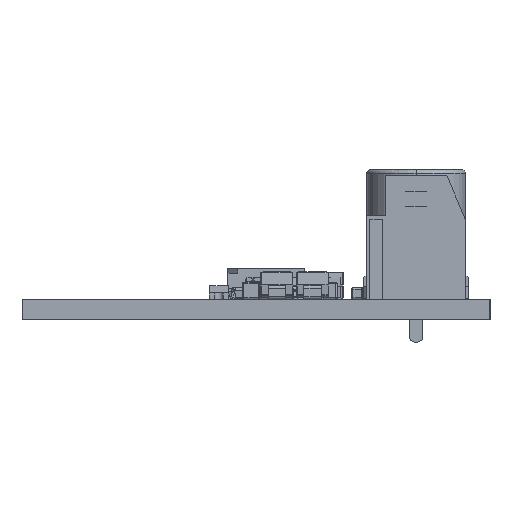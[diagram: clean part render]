
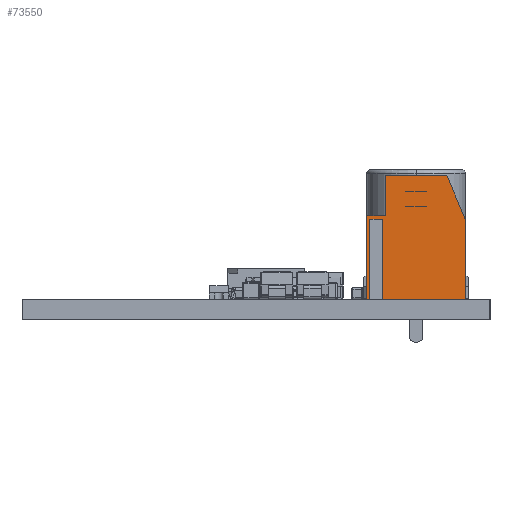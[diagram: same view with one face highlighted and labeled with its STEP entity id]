
A CAD part, left-side view. The second image highlights one B-rep face of the part: STEP entity #73550.
In plain terms, the highlighted planar face has unit normal (-1, 0, 0) as drawn and (0, -1, 0) by its records, which use the part's own axes.
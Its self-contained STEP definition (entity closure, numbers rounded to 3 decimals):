
#73132 = VERTEX_POINT('',#73133);
#73133 = CARTESIAN_POINT('',(-4.,-5.,-5.));
#73139 = EDGE_CURVE('',#73132,#73140,#73142,.T.);
#73140 = VERTEX_POINT('',#73141);
#73141 = CARTESIAN_POINT('',(-3.5,-5.,-5.));
#73142 = LINE('',#73143,#73144);
#73143 = CARTESIAN_POINT('',(-4.,-5.,-5.));
#73144 = VECTOR('',#73145,1.);
#73145 = DIRECTION('',(1.,0.,0.));
#73148 = VERTEX_POINT('',#73149);
#73149 = CARTESIAN_POINT('',(-3.,-5.,-5.));
#73155 = EDGE_CURVE('',#73148,#73156,#73158,.T.);
#73156 = VERTEX_POINT('',#73157);
#73157 = CARTESIAN_POINT('',(4.,-5.,-5.));
#73158 = LINE('',#73159,#73160);
#73159 = CARTESIAN_POINT('',(-4.,-5.,-5.));
#73160 = VECTOR('',#73161,1.);
#73161 = DIRECTION('',(1.,0.,0.));
#73347 = VERTEX_POINT('',#73348);
#73348 = CARTESIAN_POINT('',(4.,-5.,1.5));
#73354 = EDGE_CURVE('',#73347,#73355,#73357,.T.);
#73355 = VERTEX_POINT('',#73356);
#73356 = CARTESIAN_POINT('',(2.5,-5.,5.));
#73357 = LINE('',#73358,#73359);
#73358 = CARTESIAN_POINT('',(4.,-5.,1.5));
#73359 = VECTOR('',#73360,1.);
#73360 = DIRECTION('',(-0.394,0.,0.919));
#73517 = EDGE_CURVE('',#73156,#73347,#73518,.T.);
#73518 = LINE('',#73519,#73520);
#73519 = CARTESIAN_POINT('',(4.,-5.,-5.));
#73520 = VECTOR('',#73521,1.);
#73521 = DIRECTION('',(0.,0.,1.));
#73550 = ADVANCED_FACE('',(#73551),#73609,.F.);
#73551 = FACE_BOUND('',#73552,.F.);
#73552 = EDGE_LOOP('',(#73553,#73554,#73562,#73570,#73578,#73584,#73585,
    #73586,#73587,#73595,#73603));
#73553 = ORIENTED_EDGE('',*,*,#73139,.F.);
#73554 = ORIENTED_EDGE('',*,*,#73555,.F.);
#73555 = EDGE_CURVE('',#73556,#73132,#73558,.T.);
#73556 = VERTEX_POINT('',#73557);
#73557 = CARTESIAN_POINT('',(-4.,-5.,1.75));
#73558 = LINE('',#73559,#73560);
#73559 = CARTESIAN_POINT('',(-4.,-5.,1.75));
#73560 = VECTOR('',#73561,1.);
#73561 = DIRECTION('',(0.,0.,-1.));
#73562 = ORIENTED_EDGE('',*,*,#73563,.T.);
#73563 = EDGE_CURVE('',#73556,#73564,#73566,.T.);
#73564 = VERTEX_POINT('',#73565);
#73565 = CARTESIAN_POINT('',(-2.5,-5.,1.75));
#73566 = LINE('',#73567,#73568);
#73567 = CARTESIAN_POINT('',(-4.,-5.,1.75));
#73568 = VECTOR('',#73569,1.);
#73569 = DIRECTION('',(1.,0.,0.));
#73570 = ORIENTED_EDGE('',*,*,#73571,.T.);
#73571 = EDGE_CURVE('',#73564,#73572,#73574,.T.);
#73572 = VERTEX_POINT('',#73573);
#73573 = CARTESIAN_POINT('',(-2.5,-5.,5.));
#73574 = LINE('',#73575,#73576);
#73575 = CARTESIAN_POINT('',(-2.5,-5.,1.75));
#73576 = VECTOR('',#73577,1.);
#73577 = DIRECTION('',(0.,0.,1.));
#73578 = ORIENTED_EDGE('',*,*,#73579,.T.);
#73579 = EDGE_CURVE('',#73572,#73355,#73580,.T.);
#73580 = LINE('',#73581,#73582);
#73581 = CARTESIAN_POINT('',(-2.5,-5.,5.));
#73582 = VECTOR('',#73583,1.);
#73583 = DIRECTION('',(1.,0.,0.));
#73584 = ORIENTED_EDGE('',*,*,#73354,.F.);
#73585 = ORIENTED_EDGE('',*,*,#73517,.F.);
#73586 = ORIENTED_EDGE('',*,*,#73155,.F.);
#73587 = ORIENTED_EDGE('',*,*,#73588,.T.);
#73588 = EDGE_CURVE('',#73148,#73589,#73591,.T.);
#73589 = VERTEX_POINT('',#73590);
#73590 = CARTESIAN_POINT('',(-3.,-5.,1.5));
#73591 = LINE('',#73592,#73593);
#73592 = CARTESIAN_POINT('',(-3.,-5.,-5.));
#73593 = VECTOR('',#73594,1.);
#73594 = DIRECTION('',(0.,0.,1.));
#73595 = ORIENTED_EDGE('',*,*,#73596,.T.);
#73596 = EDGE_CURVE('',#73589,#73597,#73599,.T.);
#73597 = VERTEX_POINT('',#73598);
#73598 = CARTESIAN_POINT('',(-3.5,-5.,1.5));
#73599 = LINE('',#73600,#73601);
#73600 = CARTESIAN_POINT('',(-3.,-5.,1.5));
#73601 = VECTOR('',#73602,1.);
#73602 = DIRECTION('',(-1.,0.,0.));
#73603 = ORIENTED_EDGE('',*,*,#73604,.F.);
#73604 = EDGE_CURVE('',#73140,#73597,#73605,.T.);
#73605 = LINE('',#73606,#73607);
#73606 = CARTESIAN_POINT('',(-3.5,-5.,-5.));
#73607 = VECTOR('',#73608,1.);
#73608 = DIRECTION('',(0.,0.,1.));
#73609 = PLANE('',#73610);
#73610 = AXIS2_PLACEMENT_3D('',#73611,#73612,#73613);
#73611 = CARTESIAN_POINT('',(-0.047,-5.,-0.327));
#73612 = DIRECTION('',(0.,1.,0.));
#73613 = DIRECTION('',(0.,0.,1.));
